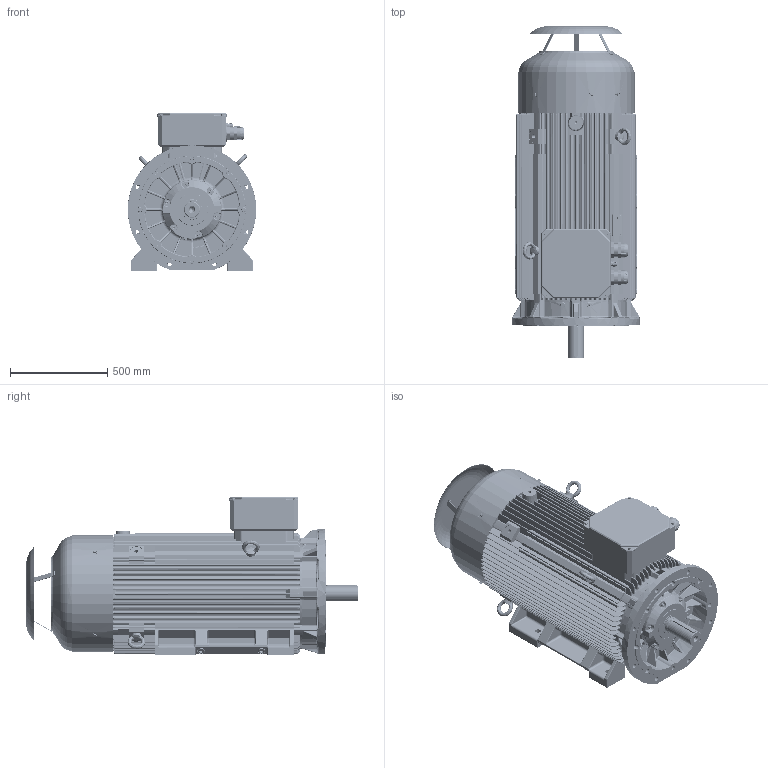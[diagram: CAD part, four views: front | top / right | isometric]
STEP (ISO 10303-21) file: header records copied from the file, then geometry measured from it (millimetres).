
FILE_DESCRIPTION(/* description */ ('Unknown'),/* implementation_level */ '2;1');
FILE_NAME(/* name */ '4SIEL315L2C',/* time_stamp */ '2023-05-10T13:20:46+02:00',/* author */ ('Unknown'),/* organization */ ('Unknown'),/* preprocessor_version */ 'ST-DEVELOPER v16.7',/* originating_system */ 'DEX',/* authorisation */ $);
FILE_SCHEMA (('AUTOMOTIVE_DESIGN {1 0 10303 214 3 1 1}'));
Products named in the file (1): 4SIEL315L2C
Bounding box: 660 x 1705.37 x 810.5 mm (x, y, z)
Volume: 159509955.5 mm3; surface area: 13777109.3 mm2
Topology: 7 solids, 36 shells, 9831 faces, 26708 edges, 16768 vertices
Faces by surface type: plane 5320, cylinder 2217, bspline 844, torus 770, cone 417, sphere 263
Full cylindrical faces by diameter (mm): 1.5 x2, 2.459 x7, 3.1 x4, 3.4 x4, 3.5 x2, 4 x1, 4.5 x1, 4.917 x4, 5 x2, 5.35 x2, 5.5 x3, 6.3 x2, 6.4 x2, 8 x4, 8.16 x8, 8.376 x6, 8.4 x3, 8.917 x1, 10 x24, 10.106 x12, 10.5 x4, 11 x12, 11.5 x1, 13.546 x9, 13.835 x2, 14 x6, 14.376 x20, 14.5 x2, 14.63 x8, 16 x23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
Entity records: 395747 total; most frequent: CARTESIAN_POINT 85911, ORIENTED_EDGE 50976, DIRECTION 46971, EDGE_CURVE 25488, VERTEX_POINT 16452, LINE 16053, VECTOR 16053, AXIS2_PLACEMENT_3D 15459
